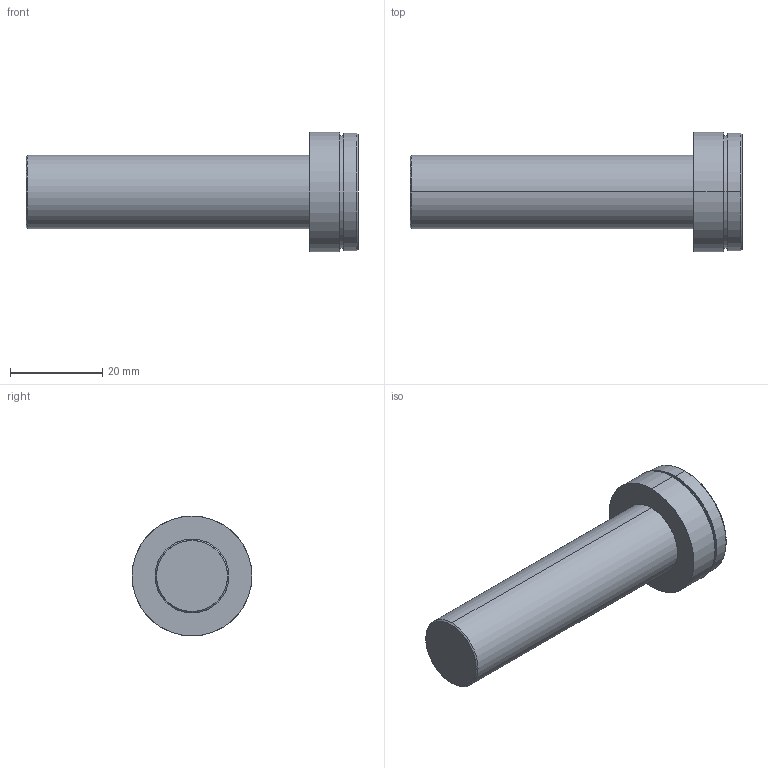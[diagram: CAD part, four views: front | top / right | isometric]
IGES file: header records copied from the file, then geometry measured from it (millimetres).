
Start section: SolidWorks IGES file using analytic representation for surfaces
Global section: file name: C:\Users\16255\Desktop\sw\WWL&WL\WWL\A\WWL05-65PA\WWL05-65PA IGESͼ.IGS,; native system: SolidWorks 2014; preprocessor: SolidWorks 2014; author: 16255; date: 191025.095131; units: millimetre
Bounding box: 72 x 26 x 26 mm (x, y, z)
Surface area: 5055.9 mm2 (no closed solid volume)
Topology: 0 solids, 0 shells, 17 faces, 304 edges, 304 vertices
Faces by surface type: revolution 12, bspline 5
